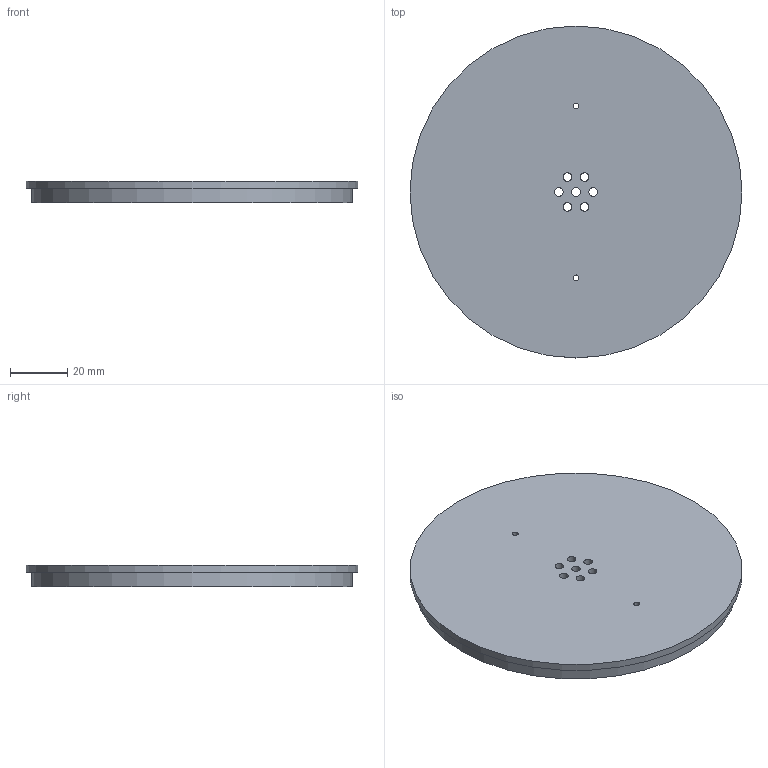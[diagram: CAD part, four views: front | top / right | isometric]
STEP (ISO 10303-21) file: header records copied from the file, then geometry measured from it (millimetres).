
FILE_DESCRIPTION(('FreeCAD Model'),'2;1');
FILE_NAME('Open CASCADE Shape Model','2026-10-22T12:56:02',('FreeCAD'),( 'FreeCAD'),'Open CASCADE STEP processor 8.0','FreeCAD','Unknown');
FILE_SCHEMA(('AUTOMOTIVE_DESIGN { 1 0 10303 214 1 1 1 1 }'));
Length unit declared in the file: millimetre
Products named in the file (1): Open CASCADE STEP translator 8.0 2
Bounding box: 116 x 116 x 7.5 mm (x, y, z)
Volume: 29743.4 mm3; surface area: 25594.6 mm2
Topology: 1 solids, 1 shells, 16 faces, 36 edges, 24 vertices
Faces by surface type: cylinder 12, plane 4
Full cylindrical faces by diameter (mm): 2 x2, 3 x7, 108.2 x1, 112.2 x1, 116 x1
Entity records: 510 total; most frequent: DIRECTION 94, CARTESIAN_POINT 77, ORIENTED_EDGE 72, AXIS2_PLACEMENT_3D 41, FACE_BOUND 36, EDGE_LOOP 36, EDGE_CURVE 36, VERTEX_POINT 24
